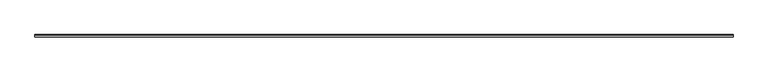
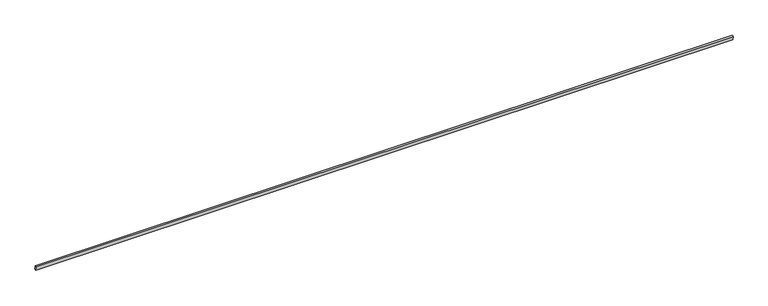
"""IFC4 building model written with IfcOpenShell, lengths in millimetres: proxy geometry, Modelos genéricos 21 : Modelos genéricos 19."""

from ifc_helpers import new_model, si_unit, frame, origin, place, context, project, spatial, polyline, outline, extrude, source, transform, mapped, element, save


def generic_models_bf8e60b2(model_context):
    return source(origin(), model_context, "Body", "SweptSolid", [
        extrude(outline(polyline([(0.0, -27228.7383178), (0.0, 0.0), (60.0, 0.0), (60.0, -27228.7383178), (0.0, -27228.7383178)])), frame((70767.1855645, 628.6238165, 3898.0915281), z_axis=(0.0, -0.2419218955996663, 0.9702957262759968), x_axis=(0.0, -0.9702957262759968, -0.2419218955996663)), (0.0, 0.0, 1.0), 160.0),
    ])


if __name__ == "__main__":
    model = new_model("IFC4")
    model_context = context("Model", 3, world=origin())
    ifc_project = project(units=[si_unit("LENGTHUNIT", "METRE", prefix="MILLI")], contexts=[model_context])
    site = spatial("IfcSite", under=ifc_project)
    building = spatial("IfcBuilding", under=site)
    placement = place(None, origin())
    generic_models_shape = generic_models_bf8e60b2(model_context)
    element("IfcBuildingElementProxy", 1, Name="Modelos genéricos 21 : Modelos genéricos 19", ObjectType="Modelos genéricos 21 : Modelos genéricos 19", at=placement, inside=building, context=model_context, shape_type="MappedRepresentation", body=[
        mapped(generic_models_shape, transform((0.0, 0.0, 0.0), x_axis=(1.0, 0.0, 0.0), y_axis=(0.0, 1.0, 0.0), z_axis=(0.0, 0.0, 1.0))),
    ])
    save(model, "model.ifc")
